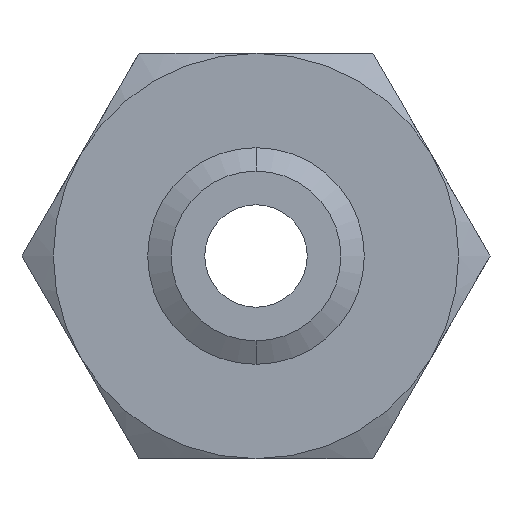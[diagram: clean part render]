
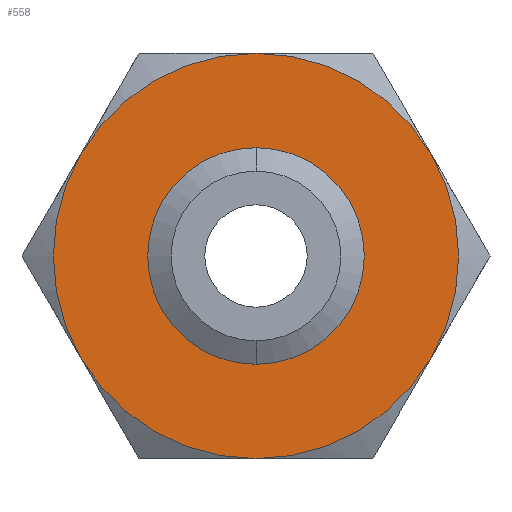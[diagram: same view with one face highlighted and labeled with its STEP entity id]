
A CAD part, front view. The second image highlights one B-rep face of the part: STEP entity #558.
In plain terms, the highlighted planar face has unit normal (0, -1, 0).
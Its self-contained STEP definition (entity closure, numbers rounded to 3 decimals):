
#267 = VERTEX_POINT ( 'NONE', #1135 ) ;
#268 = VERTEX_POINT ( 'NONE', #1196 ) ;
#277 = EDGE_CURVE ( 'NONE', #268, #267, #1223, .T. ) ;
#525 = ORIENTED_EDGE ( 'NONE', *, *, #601, .F. ) ;
#529 = EDGE_CURVE ( 'NONE', #588, #587, #1699, .T. ) ;
#558 = ADVANCED_FACE ( 'NONE', ( #1761, #1760 ), #1759, .F. ) ;
#559 = EDGE_LOOP ( 'NONE', ( #560, #525, #595, #604, #603, #596 ) ) ;
#560 = ORIENTED_EDGE ( 'NONE', *, *, #602, .F. ) ;
#580 = ORIENTED_EDGE ( 'NONE', *, *, #581, .F. ) ;
#581 = EDGE_CURVE ( 'NONE', #267, #268, #1767, .T. ) ;
#582 = VERTEX_POINT ( 'NONE', #1778 ) ;
#583 = VERTEX_POINT ( 'NONE', #1762 ) ;
#584 = EDGE_CURVE ( 'NONE', #585, #586, #1826, .T. ) ;
#585 = VERTEX_POINT ( 'NONE', #1827 ) ;
#586 = VERTEX_POINT ( 'NONE', #1821 ) ;
#587 = VERTEX_POINT ( 'NONE', #1820 ) ;
#588 = VERTEX_POINT ( 'NONE', #1819 ) ;
#589 = EDGE_CURVE ( 'NONE', #582, #585, #1818, .T. ) ;
#590 = ORIENTED_EDGE ( 'NONE', *, *, #277, .F. ) ;
#595 = ORIENTED_EDGE ( 'NONE', *, *, #529, .F. ) ;
#596 = ORIENTED_EDGE ( 'NONE', *, *, #589, .F. ) ;
#597 = EDGE_LOOP ( 'NONE', ( #590, #580 ) ) ;
#600 = EDGE_CURVE ( 'NONE', #586, #588, #1809, .T. ) ;
#601 = EDGE_CURVE ( 'NONE', #587, #583, #1801, .T. ) ;
#602 = EDGE_CURVE ( 'NONE', #583, #582, #1796, .T. ) ;
#603 = ORIENTED_EDGE ( 'NONE', *, *, #584, .F. ) ;
#604 = ORIENTED_EDGE ( 'NONE', *, *, #600, .F. ) ;
#1135 = CARTESIAN_POINT ( 'NONE',  ( 0., 0., 19.901 ) ) ;
#1196 = CARTESIAN_POINT ( 'NONE',  ( 0., 0., -19.901 ) ) ;
#1219 = DIRECTION ( 'NONE',  ( 0., 0., -1. ) ) ;
#1220 = DIRECTION ( 'NONE',  ( 0., -1., 0. ) ) ;
#1221 = CARTESIAN_POINT ( 'NONE',  ( 0., 0., 0. ) ) ;
#1222 = AXIS2_PLACEMENT_3D ( 'NONE', #1221, #1220, #1219 ) ;
#1223 = CIRCLE ( 'NONE', #1222, 19.901 ) ;
#1695 = DIRECTION ( 'NONE',  ( 0., 0., 1. ) ) ;
#1696 = DIRECTION ( 'NONE',  ( 0., 1., 0. ) ) ;
#1697 = CARTESIAN_POINT ( 'NONE',  ( 0., 0., 0. ) ) ;
#1698 = AXIS2_PLACEMENT_3D ( 'NONE', #1697, #1696, #1695 ) ;
#1699 = CIRCLE ( 'NONE', #1698, 47.5 ) ;
#1755 = DIRECTION ( 'NONE',  ( 0., 0., 1. ) ) ;
#1756 = DIRECTION ( 'NONE',  ( 0., 1., 0. ) ) ;
#1757 = CARTESIAN_POINT ( 'NONE',  ( 27.424, 0., -47.5 ) ) ;
#1758 = AXIS2_PLACEMENT_3D ( 'NONE', #1757, #1756, #1755 ) ;
#1759 = PLANE ( 'NONE',  #1758 ) ;
#1760 = FACE_BOUND ( 'NONE', #597, .T. ) ;
#1761 = FACE_OUTER_BOUND ( 'NONE', #559, .T. ) ;
#1762 = CARTESIAN_POINT ( 'NONE',  ( 0., 0., 47.5 ) ) ;
#1763 = DIRECTION ( 'NONE',  ( 0., 0., -1. ) ) ;
#1764 = DIRECTION ( 'NONE',  ( 0., -1., 0. ) ) ;
#1765 = CARTESIAN_POINT ( 'NONE',  ( 0., 0., 0. ) ) ;
#1766 = AXIS2_PLACEMENT_3D ( 'NONE', #1765, #1764, #1763 ) ;
#1767 = CIRCLE ( 'NONE', #1766, 19.901 ) ;
#1778 = CARTESIAN_POINT ( 'NONE',  ( 41.136, 0., 23.75 ) ) ;
#1795 = AXIS2_PLACEMENT_3D ( 'NONE', #1859, #1858, #1857 ) ;
#1796 = CIRCLE ( 'NONE', #1795, 47.5 ) ;
#1797 = DIRECTION ( 'NONE',  ( 0., 0., 1. ) ) ;
#1798 = DIRECTION ( 'NONE',  ( 0., 1., 0. ) ) ;
#1799 = CARTESIAN_POINT ( 'NONE',  ( 0., 0., 0. ) ) ;
#1800 = AXIS2_PLACEMENT_3D ( 'NONE', #1799, #1798, #1797 ) ;
#1801 = CIRCLE ( 'NONE', #1800, 47.5 ) ;
#1802 = DIRECTION ( 'NONE',  ( 0., 0., 1. ) ) ;
#1803 = DIRECTION ( 'NONE',  ( 0., 1., 0. ) ) ;
#1804 = CARTESIAN_POINT ( 'NONE',  ( 0., 0., 0. ) ) ;
#1805 = AXIS2_PLACEMENT_3D ( 'NONE', #1804, #1803, #1802 ) ;
#1809 = CIRCLE ( 'NONE', #1805, 47.5 ) ;
#1814 = DIRECTION ( 'NONE',  ( 0., 0., 1. ) ) ;
#1815 = DIRECTION ( 'NONE',  ( 0., 1., 0. ) ) ;
#1816 = CARTESIAN_POINT ( 'NONE',  ( 0., 0., 0. ) ) ;
#1817 = AXIS2_PLACEMENT_3D ( 'NONE', #1816, #1815, #1814 ) ;
#1818 = CIRCLE ( 'NONE', #1817, 47.5 ) ;
#1819 = CARTESIAN_POINT ( 'NONE',  ( -41.136, 0., -23.75 ) ) ;
#1820 = CARTESIAN_POINT ( 'NONE',  ( -41.136, 0., 23.75 ) ) ;
#1821 = CARTESIAN_POINT ( 'NONE',  ( 0., 0., -47.5 ) ) ;
#1822 = DIRECTION ( 'NONE',  ( 0., 0., 1. ) ) ;
#1823 = DIRECTION ( 'NONE',  ( 0., 1., 0. ) ) ;
#1824 = CARTESIAN_POINT ( 'NONE',  ( 0., 0., 0. ) ) ;
#1825 = AXIS2_PLACEMENT_3D ( 'NONE', #1824, #1823, #1822 ) ;
#1826 = CIRCLE ( 'NONE', #1825, 47.5 ) ;
#1827 = CARTESIAN_POINT ( 'NONE',  ( 41.136, 0., -23.75 ) ) ;
#1857 = DIRECTION ( 'NONE',  ( 0., 0., 1. ) ) ;
#1858 = DIRECTION ( 'NONE',  ( 0., 1., 0. ) ) ;
#1859 = CARTESIAN_POINT ( 'NONE',  ( 0., 0., 0. ) ) ;
